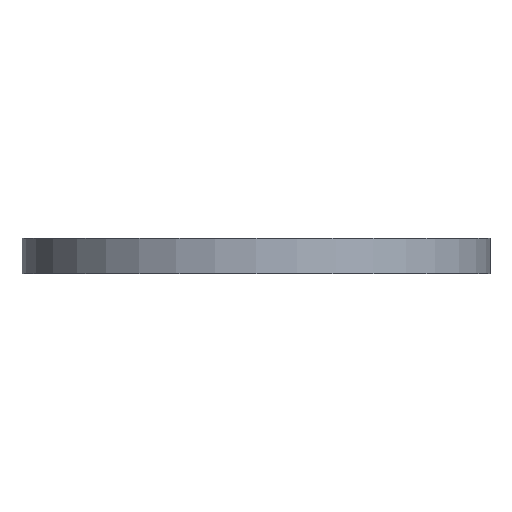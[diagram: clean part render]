
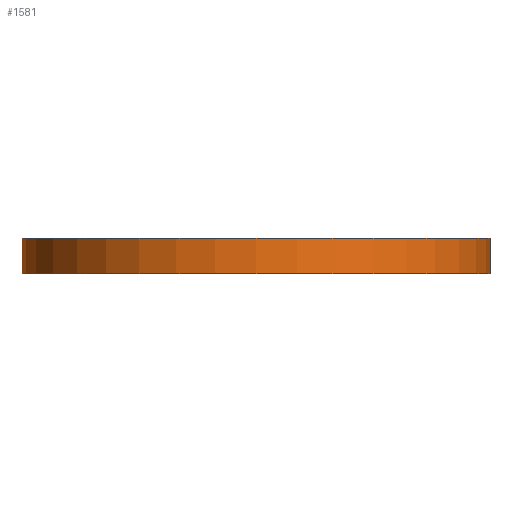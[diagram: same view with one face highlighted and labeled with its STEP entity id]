
A CAD part, front view. The second image highlights one B-rep face of the part: STEP entity #1581.
In plain terms, the highlighted cylindrical face has radius 377.5 mm (diameter 755 mm), a partial arc.
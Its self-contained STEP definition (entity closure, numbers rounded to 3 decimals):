
#50 = CYLINDRICAL_SURFACE ( 'NONE', #1258, 377.5 ) ;
#80 = CARTESIAN_POINT ( 'NONE',  ( -377.5, 0., 0. ) ) ;
#203 = CARTESIAN_POINT ( 'NONE',  ( 377.5, 0., -57. ) ) ;
#224 = AXIS2_PLACEMENT_3D ( 'NONE', #997, #1380, #1377 ) ;
#263 = CARTESIAN_POINT ( 'NONE',  ( -377.5, 0., -57. ) ) ;
#382 = VECTOR ( 'NONE', #736, 1000. ) ;
#393 = EDGE_CURVE ( 'NONE', #1358, #926, #739, .T. ) ;
#512 = EDGE_CURVE ( 'NONE', #1232, #1358, #969, .T. ) ;
#532 = CARTESIAN_POINT ( 'NONE',  ( 377.5, 0., 0. ) ) ;
#564 = DIRECTION ( 'NONE',  ( 0., 0., 1. ) ) ;
#566 = CARTESIAN_POINT ( 'NONE',  ( -377.5, 0., -150. ) ) ;
#567 = LINE ( 'NONE', #566, #1089 ) ;
#697 = DIRECTION ( 'NONE',  ( 1., 0., 0. ) ) ;
#698 = DIRECTION ( 'NONE',  ( 0., 0., 1. ) ) ;
#700 = CARTESIAN_POINT ( 'NONE',  ( 0., 0., -57. ) ) ;
#736 = DIRECTION ( 'NONE',  ( 0., 0., 1. ) ) ;
#737 = CARTESIAN_POINT ( 'NONE',  ( 377.5, 0., -150. ) ) ;
#739 = LINE ( 'NONE', #737, #382 ) ;
#811 = CARTESIAN_POINT ( 'NONE',  ( 0., 0., -150. ) ) ;
#882 = EDGE_CURVE ( 'NONE', #1232, #1469, #567, .T. ) ;
#926 = VERTEX_POINT ( 'NONE', #532 ) ;
#954 = EDGE_LOOP ( 'NONE', ( #1186, #1188, #1189, #1190 ) ) ;
#969 = CIRCLE ( 'NONE', #975, 377.5 ) ;
#975 = AXIS2_PLACEMENT_3D ( 'NONE', #700, #698, #697 ) ;
#997 = CARTESIAN_POINT ( 'NONE',  ( 0., 0., 0. ) ) ;
#1089 = VECTOR ( 'NONE', #564, 1000. ) ;
#1186 = ORIENTED_EDGE ( 'NONE', *, *, #882, .F. ) ;
#1188 = ORIENTED_EDGE ( 'NONE', *, *, #512, .T. ) ;
#1189 = ORIENTED_EDGE ( 'NONE', *, *, #393, .T. ) ;
#1190 = ORIENTED_EDGE ( 'NONE', *, *, #1543, .F. ) ;
#1232 = VERTEX_POINT ( 'NONE', #263 ) ;
#1258 = AXIS2_PLACEMENT_3D ( 'NONE', #811, #1303, #1601 ) ;
#1303 = DIRECTION ( 'NONE',  ( 0., 0., 1. ) ) ;
#1358 = VERTEX_POINT ( 'NONE', #203 ) ;
#1377 = DIRECTION ( 'NONE',  ( 1., 0., 0. ) ) ;
#1380 = DIRECTION ( 'NONE',  ( 0., 0., 1. ) ) ;
#1402 = FACE_OUTER_BOUND ( 'NONE', #954, .T. ) ;
#1436 = CIRCLE ( 'NONE', #224, 377.5 ) ;
#1469 = VERTEX_POINT ( 'NONE', #80 ) ;
#1543 = EDGE_CURVE ( 'NONE', #1469, #926, #1436, .T. ) ;
#1581 = ADVANCED_FACE ( 'NONE', ( #1402 ), #50, .T. ) ;
#1601 = DIRECTION ( 'NONE',  ( 1., 0., 0. ) ) ;
